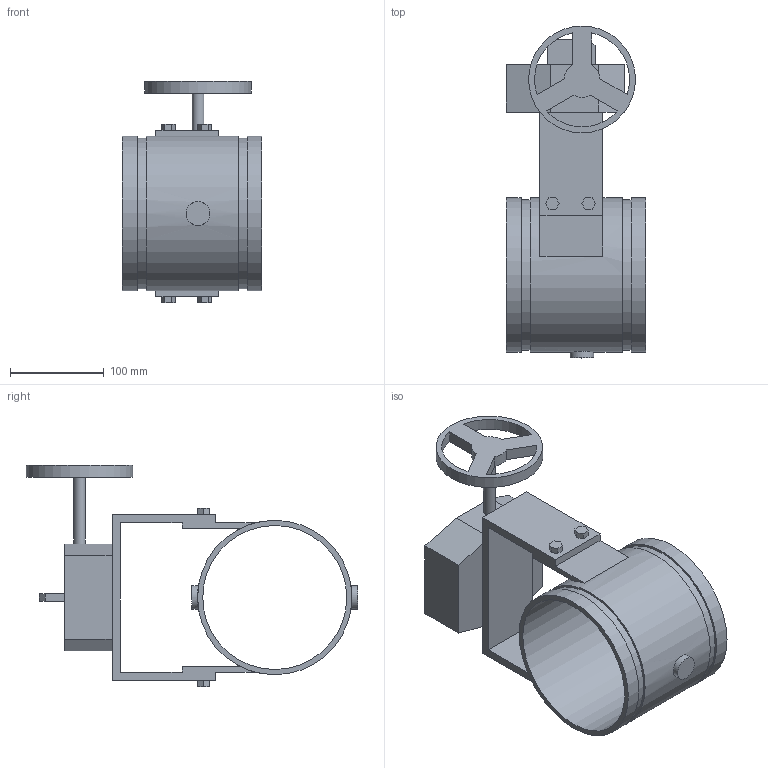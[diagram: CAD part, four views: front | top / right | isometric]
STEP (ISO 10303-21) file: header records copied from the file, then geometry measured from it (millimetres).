
FILE_DESCRIPTION(/* description */ ('VIC FIRELOCK BUTTERFLY VALVE SERIES 707 W/ WEATHERPROOF ACTUATOR FOR 300 PSI','CAx-IF Rec.Pracs.---Representation and Presentation of Product Manufacturing Information (PMI)---4.0---2014-10-13'),/* implementation_level */ '2;1');
FILE_NAME(/* name */ 'C:\Users\Vjadhav\AppData\Roaming\Autodesk\ApplicationPlugins\Back Up\Victaulic_FP-FireLock_Valve Butterfly_Series 707 (OGS)-Closed\Victaulic_FP-FireLock_Valve Butterfly_Series 707 (OGS)-Closed_06.0 (165.1) (150).stp',/* time_stamp */ '2020-07-22T11:31:36+05:00',/* author */ ('kkamble'),/* organization */ ('Victaulic'),/* preprocessor_version */ 'ST-DEVELOPER v17.2',/* originating_system */ 'Autodesk Inventor 2019',/* authorisation */ '');
FILE_SCHEMA (('AP242_MANAGED_MODEL_BASED_3D_ENGINEERING_MIM_LF { 1 0 10303 442 1 1 4 }'));
Length unit declared in the file: inch
Products named in the file (1): 707-06.0 (165.1)
Bounding box: 149.61 x 354.81 x 236.73 mm (x, y, z)
Volume: 1468197.4 mm3; surface area: 292213.1 mm2
Topology: 1 solids, 1 shells, 95 faces, 254 edges, 173 vertices
Faces by surface type: plane 79, cylinder 16
Full cylindrical faces by diameter (mm): 12.624 x1, 25.4 x2, 114.3 x1, 154.051 x1, 160.782 x2, 165.1 x3
Entity records: 3306 total; most frequent: CARTESIAN_POINT 609, DIRECTION 515, ORIENTED_EDGE 508, EDGE_CURVE 254, LINE 201, VECTOR 201, VERTEX_POINT 173, AXIS2_PLACEMENT_3D 157
